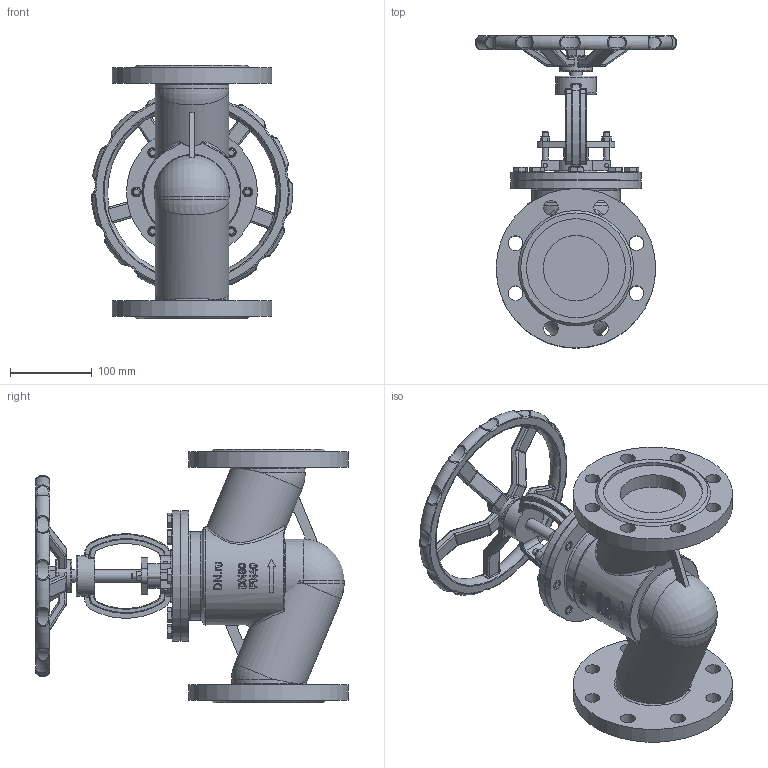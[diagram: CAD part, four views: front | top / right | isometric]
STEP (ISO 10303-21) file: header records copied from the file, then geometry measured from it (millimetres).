
FILE_DESCRIPTION(('STEP AP203'), '1');
FILE_NAME('VSO3131M-F-S 孰囡囗 玎镱痦 DN.ru 捏80 畜40', '2026-04-14T18:13:20', ('R2D2'), (''), 'C3D Converter', 'C3D Toolkit', '');
FILE_SCHEMA(('CONFIG_CONTROL_DESIGN'));
Length unit declared in the file: millimetre
Products named in the file (1): VSO3131M-F-S
Bounding box: 246.19 x 381.92 x 310 mm (x, y, z)
Volume: 4603861.6 mm3; surface area: 436708.1 mm2
Topology: 1 solids, 1 shells, 1173 faces, 2781 edges, 1659 vertices
Faces by surface type: plane 373, cylinder 254, torus 165, extrusion 129, cone 99, bspline 81, sphere 72
Full cylindrical faces by diameter (mm): 5 x4, 7 x4, 10 x8, 12 x8, 15 x3, 16 x8, 18 x17, 30 x1, 40 x1, 50 x1, 80 x2, 90 x3, 108 x1, 121 x2, 160 x2, 195 x2
Entity records: 73744 total; most frequent: CARTESIAN_POINT 38827, ORIENTED_EDGE 5314, DIRECTION 4946, EDGE_CURVE 2657, AXIS2_PLACEMENT_3D 1966, VERTEX_POINT 1655, EDGE_LOOP 1398, FACE_BOUND 1226
